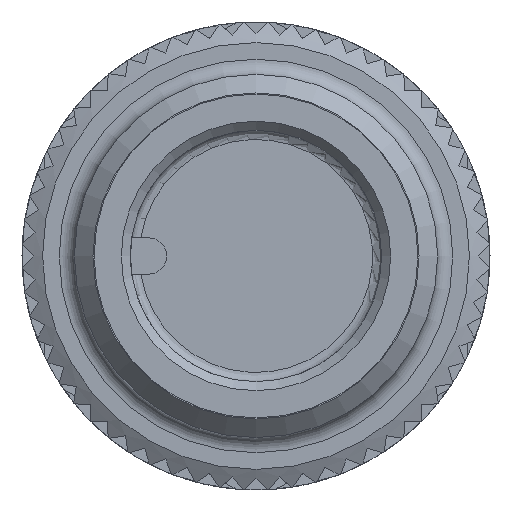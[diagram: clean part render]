
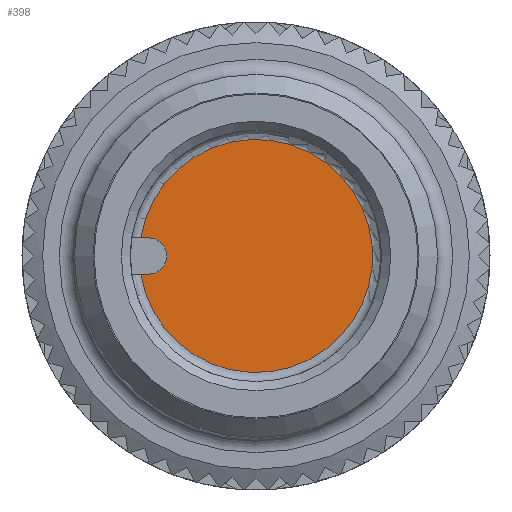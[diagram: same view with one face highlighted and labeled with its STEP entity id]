
A CAD part, left-side view. The second image highlights one B-rep face of the part: STEP entity #398.
In plain terms, the highlighted planar face has unit normal (-1, 0, 0).
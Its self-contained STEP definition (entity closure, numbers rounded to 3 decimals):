
#398 = ADVANCED_FACE( '', ( #1128 ), #1129, .F. );
#1128 = FACE_OUTER_BOUND( '', #2184, .T. );
#1129 = PLANE( '', #2185 );
#2184 = EDGE_LOOP( '', ( #4745, #4746, #4747, #4748 ) );
#2185 = AXIS2_PLACEMENT_3D( '', #4749, #4750, #4751 );
#4745 = ORIENTED_EDGE( '', *, *, #7301, .F. );
#4746 = ORIENTED_EDGE( '', *, *, #7473, .F. );
#4747 = ORIENTED_EDGE( '', *, *, #7294, .F. );
#4748 = ORIENTED_EDGE( '', *, *, #7298, .F. );
#4749 = CARTESIAN_POINT( '', ( 10.1, 0., 0. ) );
#4750 = DIRECTION( '', ( 1., 0., 0. ) );
#4751 = DIRECTION( '', ( 0., 0., -1. ) );
#7294 = EDGE_CURVE( '', #8953, #8955, #8956, .T. );
#7298 = EDGE_CURVE( '', #8959, #8953, #8962, .T. );
#7301 = EDGE_CURVE( '', #8964, #8959, #8966, .T. );
#7473 = EDGE_CURVE( '', #8955, #8964, #9222, .F. );
#8953 = VERTEX_POINT( '', #11904 );
#8955 = VERTEX_POINT( '', #11911 );
#8956 = LINE( '', #11912, #11913 );
#8959 = VERTEX_POINT( '', #11918 );
#8962 = CIRCLE( '', #11926, 3.85 );
#8964 = VERTEX_POINT( '', #11928 );
#8966 = LINE( '', #11931, #11932 );
#9222 = CIRCLE( '', #12316, 0.6 );
#11904 = CARTESIAN_POINT( '', ( 10.1, 3.803, -0.6 ) );
#11911 = CARTESIAN_POINT( '', ( 10.1, 3.55, -0.6 ) );
#11912 = CARTESIAN_POINT( '', ( 10.1, 0., -0.6 ) );
#11913 = VECTOR( '', #14930, 1000. );
#11918 = CARTESIAN_POINT( '', ( 10.1, 3.803, 0.6 ) );
#11926 = AXIS2_PLACEMENT_3D( '', #14933, #14934, #14935 );
#11928 = CARTESIAN_POINT( '', ( 10.1, 3.55, 0.6 ) );
#11931 = CARTESIAN_POINT( '', ( 10.1, 0., 0.6 ) );
#11932 = VECTOR( '', #14940, 1000. );
#12316 = AXIS2_PLACEMENT_3D( '', #15195, #15196, #15197 );
#14930 = DIRECTION( '', ( 0., -1., 0. ) );
#14933 = CARTESIAN_POINT( '', ( 10.1, 0., 0. ) );
#14934 = DIRECTION( '', ( 1., 0., 0. ) );
#14935 = DIRECTION( '', ( 0., 0., -1. ) );
#14940 = DIRECTION( '', ( 0., 1., 0. ) );
#15195 = CARTESIAN_POINT( '', ( 10.1, 3.55, 0. ) );
#15196 = DIRECTION( '', ( 1., 0., 0. ) );
#15197 = DIRECTION( '', ( 0., 0., -1. ) );
